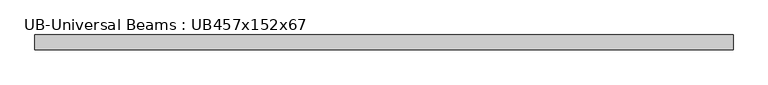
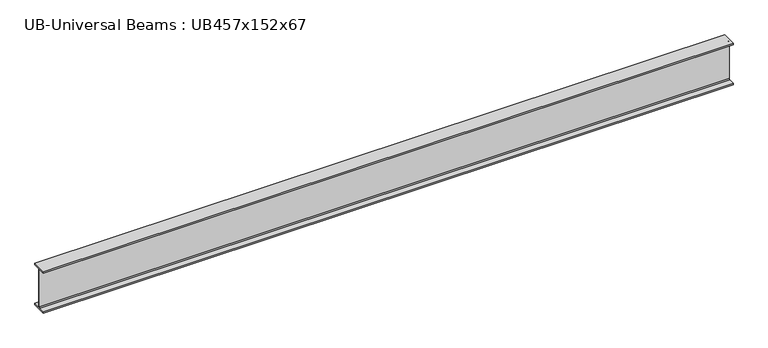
"""IFC4 building model written with IfcOpenShell, lengths in millimetres: beam geometry, UB-Universal Beams : UB457x152x67."""

from ifc_helpers import new_model, si_unit, point, frame, frame_2d, origin, place, context, project, spatial, polyline, circle_curve, trimmed, segment, composite_curve, outline, extrude, source, transform, mapped, element, save


def ub_universal_beams_ub457x152x67_54a4210b(model_context):
    return source(origin(), model_context, "Body", "SweptSolid", [
        extrude(outline(composite_curve([segment(polyline([(76.9, -214.0), (76.9, -229.0), (-76.9, -229.0), (-76.9, -214.0), (-14.7, -214.0)]), True, "CONTINUOUS"), segment(trimmed(circle_curve(frame_2d((-14.7, -203.8)), 10.2), [point((-14.7, -214.0))], [point((-4.5, -203.8))], True, "CARTESIAN"), True, "CONTINUOUS"), segment(polyline([(-4.5, -203.8), (-4.5, 203.8)]), True, "CONTINUOUS"), segment(trimmed(circle_curve(frame_2d((-14.7, 203.8)), 10.2), [point((-4.5, 203.8))], [point((-14.7, 214.0))], True, "CARTESIAN"), True, "CONTINUOUS"), segment(polyline([(-14.7, 214.0), (-76.9, 214.0), (-76.9, 229.0), (76.9, 229.0), (76.9, 214.0), (14.7, 214.0)]), True, "CONTINUOUS"), segment(trimmed(circle_curve(frame_2d((14.7, 203.8)), 10.2), [point((14.7, 214.0))], [point((4.5, 203.8))], True, "CARTESIAN"), True, "CONTINUOUS"), segment(polyline([(4.5, 203.8), (4.5, -203.8)]), True, "CONTINUOUS"), segment(trimmed(circle_curve(frame_2d((14.7, -203.8)), 10.2), [point((4.5, -203.8))], [point((14.7, -214.0))], True, "CARTESIAN"), True, "CONTINUOUS"), segment(polyline([(14.7, -214.0), (76.9, -214.0)]), True, "CONTINUOUS")], self_intersect=False)), frame((-3600.6, 0.0, 0.0), z_axis=(1.0, 0.0, 0.0), x_axis=(0.0, 1.0, 0.0)), (0.0, 0.0, 1.0), 7237.9),
    ])


if __name__ == "__main__":
    model = new_model("IFC4")
    model_context = context("Model", 3, world=origin())
    ifc_project = project(units=[si_unit("LENGTHUNIT", "METRE", prefix="MILLI")], contexts=[model_context])
    site = spatial("IfcSite", under=ifc_project)
    building = spatial("IfcBuilding", under=site)
    placement = place(None, origin())
    ub_universal_beams_ub457x152x67_shape = ub_universal_beams_ub457x152x67_54a4210b(model_context)
    element("IfcBeam", 1, ObjectType="UB-Universal Beams : UB457x152x67", at=placement, inside=building, context=model_context, shape_type="MappedRepresentation", body=[
        mapped(ub_universal_beams_ub457x152x67_shape, transform((0.0, 0.0, 0.0), x_axis=(1.0, 0.0, 0.0), y_axis=(0.0, 1.0, 0.0), z_axis=(0.0, 0.0, 1.0))),
    ])
    save(model, "model.ifc")
